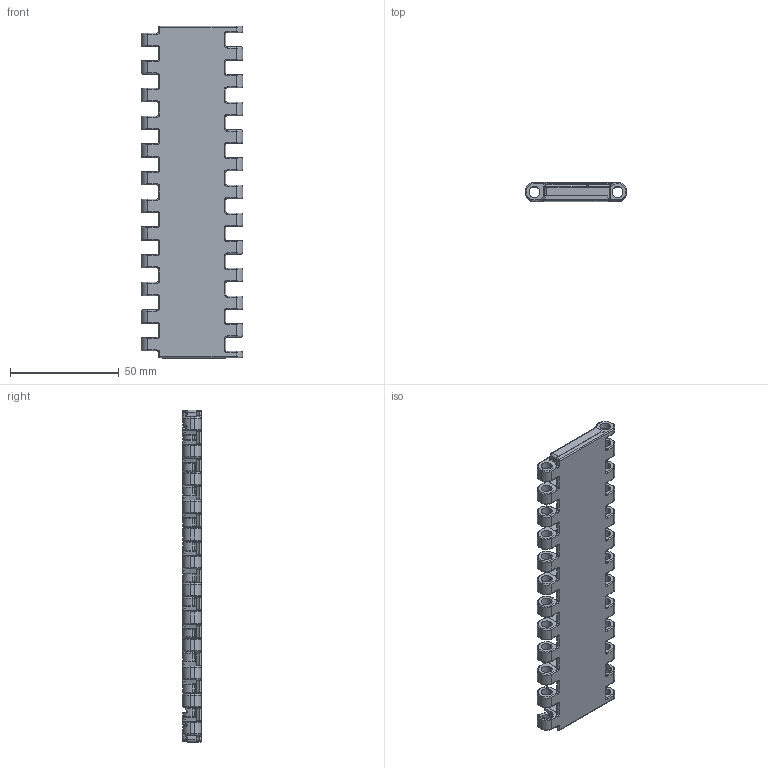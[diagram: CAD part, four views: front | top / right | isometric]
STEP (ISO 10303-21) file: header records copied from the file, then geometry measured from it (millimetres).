
FILE_DESCRIPTION((''),'2;1');
FILE_NAME('P489','2016-06-13T',('jas'),(''),'CREO PARAMETRIC BY PTC INC, 2016050','CREO PARAMETRIC BY PTC INC, 2016050','');
FILE_SCHEMA(('AUTOMOTIVE_DESIGN { 1 0 10303 214 1 1 1 1 }'));
Products named in the file (1): P489
Bounding box: 46.58 x 8.51 x 152.3 mm (x, y, z)
Volume: 21557.7 mm3; surface area: 22254.2 mm2
Topology: 1 solids, 1 shells, 2810 faces, 7447 edges, 4709 vertices
Faces by surface type: plane 1707, cylinder 591, bspline 258, torus 220, sphere 30, cone 4
Entity records: 108082 total; most frequent: CARTESIAN_POINT 40168, ORIENTED_EDGE 14894, DIRECTION 12747, EDGE_CURVE 7447, VECTOR 5395, LINE 5395, VERTEX_POINT 4709, AXIS2_PLACEMENT_3D 3676
